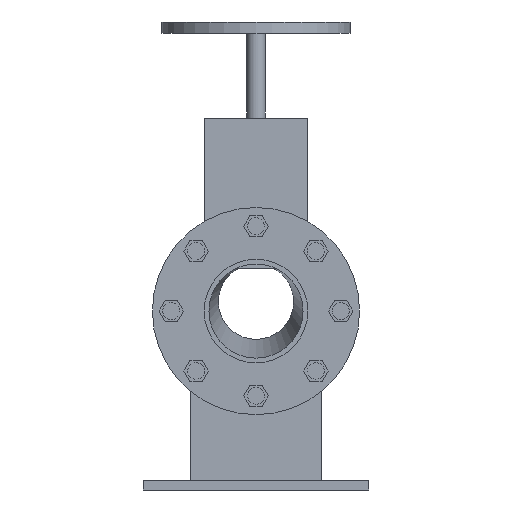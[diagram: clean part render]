
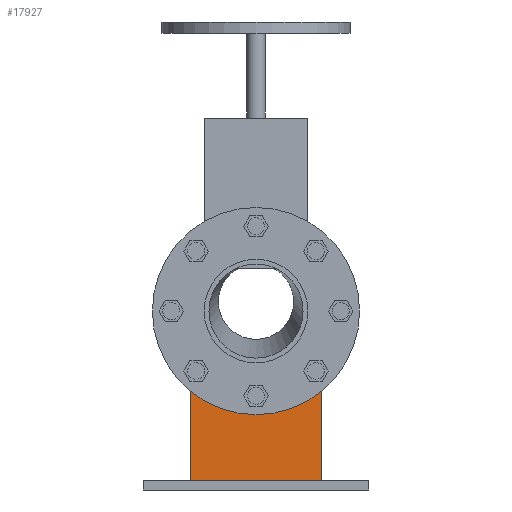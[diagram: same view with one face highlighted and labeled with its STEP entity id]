
A CAD part, left-side view. The second image highlights one B-rep face of the part: STEP entity #17927.
In plain terms, the highlighted planar face has unit normal (-1, 0, 0).
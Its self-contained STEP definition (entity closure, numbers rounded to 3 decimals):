
#17927 = ADVANCED_FACE('',(#17928),#17942,.F.);
#17928 = FACE_BOUND('',#17929,.F.);
#17929 = EDGE_LOOP('',(#17930,#17965,#17993,#18021));
#17930 = ORIENTED_EDGE('',*,*,#17931,.F.);
#17931 = EDGE_CURVE('',#17932,#17934,#17936,.T.);
#17932 = VERTEX_POINT('',#17933);
#17933 = CARTESIAN_POINT('',(-45.,-70.,0.));
#17934 = VERTEX_POINT('',#17935);
#17935 = CARTESIAN_POINT('',(-45.,-70.,130.));
#17936 = SURFACE_CURVE('',#17937,(#17941,#17953),.PCURVE_S1.);
#17937 = LINE('',#17938,#17939);
#17938 = CARTESIAN_POINT('',(-45.,-70.,0.));
#17939 = VECTOR('',#17940,1.);
#17940 = DIRECTION('',(0.,0.,1.));
#17941 = PCURVE('',#17942,#17947);
#17942 = PLANE('',#17943);
#17943 = AXIS2_PLACEMENT_3D('',#17944,#17945,#17946);
#17944 = CARTESIAN_POINT('',(-45.,-70.,0.));
#17945 = DIRECTION('',(1.,0.,-0.));
#17946 = DIRECTION('',(0.,0.,1.));
#17947 = DEFINITIONAL_REPRESENTATION('',(#17948),#17952);
#17948 = LINE('',#17949,#17950);
#17949 = CARTESIAN_POINT('',(0.,0.));
#17950 = VECTOR('',#17951,1.);
#17951 = DIRECTION('',(1.,0.));
#17952 = ( GEOMETRIC_REPRESENTATION_CONTEXT(2) 
PARAMETRIC_REPRESENTATION_CONTEXT() REPRESENTATION_CONTEXT('2D SPACE',''
  ) );
#17953 = PCURVE('',#17954,#17959);
#17954 = PLANE('',#17955);
#17955 = AXIS2_PLACEMENT_3D('',#17956,#17957,#17958);
#17956 = CARTESIAN_POINT('',(-45.,-70.,0.));
#17957 = DIRECTION('',(-0.,1.,0.));
#17958 = DIRECTION('',(0.,0.,1.));
#17959 = DEFINITIONAL_REPRESENTATION('',(#17960),#17964);
#17960 = LINE('',#17961,#17962);
#17961 = CARTESIAN_POINT('',(0.,0.));
#17962 = VECTOR('',#17963,1.);
#17963 = DIRECTION('',(1.,0.));
#17964 = ( GEOMETRIC_REPRESENTATION_CONTEXT(2) 
PARAMETRIC_REPRESENTATION_CONTEXT() REPRESENTATION_CONTEXT('2D SPACE',''
  ) );
#17965 = ORIENTED_EDGE('',*,*,#17966,.T.);
#17966 = EDGE_CURVE('',#17932,#17967,#17969,.T.);
#17967 = VERTEX_POINT('',#17968);
#17968 = CARTESIAN_POINT('',(-45.,70.,0.));
#17969 = SURFACE_CURVE('',#17970,(#17974,#17981),.PCURVE_S1.);
#17970 = LINE('',#17971,#17972);
#17971 = CARTESIAN_POINT('',(-45.,-70.,0.));
#17972 = VECTOR('',#17973,1.);
#17973 = DIRECTION('',(-0.,1.,0.));
#17974 = PCURVE('',#17942,#17975);
#17975 = DEFINITIONAL_REPRESENTATION('',(#17976),#17980);
#17976 = LINE('',#17977,#17978);
#17977 = CARTESIAN_POINT('',(0.,0.));
#17978 = VECTOR('',#17979,1.);
#17979 = DIRECTION('',(0.,-1.));
#17980 = ( GEOMETRIC_REPRESENTATION_CONTEXT(2) 
PARAMETRIC_REPRESENTATION_CONTEXT() REPRESENTATION_CONTEXT('2D SPACE',''
  ) );
#17981 = PCURVE('',#17982,#17987);
#17982 = PLANE('',#17983);
#17983 = AXIS2_PLACEMENT_3D('',#17984,#17985,#17986);
#17984 = CARTESIAN_POINT('',(-45.,-70.,0.));
#17985 = DIRECTION('',(0.,0.,1.));
#17986 = DIRECTION('',(1.,0.,-0.));
#17987 = DEFINITIONAL_REPRESENTATION('',(#17988),#17992);
#17988 = LINE('',#17989,#17990);
#17989 = CARTESIAN_POINT('',(0.,0.));
#17990 = VECTOR('',#17991,1.);
#17991 = DIRECTION('',(0.,1.));
#17992 = ( GEOMETRIC_REPRESENTATION_CONTEXT(2) 
PARAMETRIC_REPRESENTATION_CONTEXT() REPRESENTATION_CONTEXT('2D SPACE',''
  ) );
#17993 = ORIENTED_EDGE('',*,*,#17994,.T.);
#17994 = EDGE_CURVE('',#17967,#17995,#17997,.T.);
#17995 = VERTEX_POINT('',#17996);
#17996 = CARTESIAN_POINT('',(-45.,70.,130.));
#17997 = SURFACE_CURVE('',#17998,(#18002,#18009),.PCURVE_S1.);
#17998 = LINE('',#17999,#18000);
#17999 = CARTESIAN_POINT('',(-45.,70.,0.));
#18000 = VECTOR('',#18001,1.);
#18001 = DIRECTION('',(0.,0.,1.));
#18002 = PCURVE('',#17942,#18003);
#18003 = DEFINITIONAL_REPRESENTATION('',(#18004),#18008);
#18004 = LINE('',#18005,#18006);
#18005 = CARTESIAN_POINT('',(0.,-140.));
#18006 = VECTOR('',#18007,1.);
#18007 = DIRECTION('',(1.,0.));
#18008 = ( GEOMETRIC_REPRESENTATION_CONTEXT(2) 
PARAMETRIC_REPRESENTATION_CONTEXT() REPRESENTATION_CONTEXT('2D SPACE',''
  ) );
#18009 = PCURVE('',#18010,#18015);
#18010 = PLANE('',#18011);
#18011 = AXIS2_PLACEMENT_3D('',#18012,#18013,#18014);
#18012 = CARTESIAN_POINT('',(-45.,70.,0.));
#18013 = DIRECTION('',(-0.,1.,0.));
#18014 = DIRECTION('',(0.,0.,1.));
#18015 = DEFINITIONAL_REPRESENTATION('',(#18016),#18020);
#18016 = LINE('',#18017,#18018);
#18017 = CARTESIAN_POINT('',(0.,0.));
#18018 = VECTOR('',#18019,1.);
#18019 = DIRECTION('',(1.,0.));
#18020 = ( GEOMETRIC_REPRESENTATION_CONTEXT(2) 
PARAMETRIC_REPRESENTATION_CONTEXT() REPRESENTATION_CONTEXT('2D SPACE',''
  ) );
#18021 = ORIENTED_EDGE('',*,*,#18022,.F.);
#18022 = EDGE_CURVE('',#17934,#17995,#18023,.T.);
#18023 = SURFACE_CURVE('',#18024,(#18028,#18035),.PCURVE_S1.);
#18024 = LINE('',#18025,#18026);
#18025 = CARTESIAN_POINT('',(-45.,-70.,130.));
#18026 = VECTOR('',#18027,1.);
#18027 = DIRECTION('',(-0.,1.,0.));
#18028 = PCURVE('',#17942,#18029);
#18029 = DEFINITIONAL_REPRESENTATION('',(#18030),#18034);
#18030 = LINE('',#18031,#18032);
#18031 = CARTESIAN_POINT('',(130.,0.));
#18032 = VECTOR('',#18033,1.);
#18033 = DIRECTION('',(0.,-1.));
#18034 = ( GEOMETRIC_REPRESENTATION_CONTEXT(2) 
PARAMETRIC_REPRESENTATION_CONTEXT() REPRESENTATION_CONTEXT('2D SPACE',''
  ) );
#18035 = PCURVE('',#18036,#18041);
#18036 = PLANE('',#18037);
#18037 = AXIS2_PLACEMENT_3D('',#18038,#18039,#18040);
#18038 = CARTESIAN_POINT('',(-45.,-70.,130.));
#18039 = DIRECTION('',(0.,0.,1.));
#18040 = DIRECTION('',(1.,0.,-0.));
#18041 = DEFINITIONAL_REPRESENTATION('',(#18042),#18046);
#18042 = LINE('',#18043,#18044);
#18043 = CARTESIAN_POINT('',(0.,0.));
#18044 = VECTOR('',#18045,1.);
#18045 = DIRECTION('',(0.,1.));
#18046 = ( GEOMETRIC_REPRESENTATION_CONTEXT(2) 
PARAMETRIC_REPRESENTATION_CONTEXT() REPRESENTATION_CONTEXT('2D SPACE',''
  ) );
